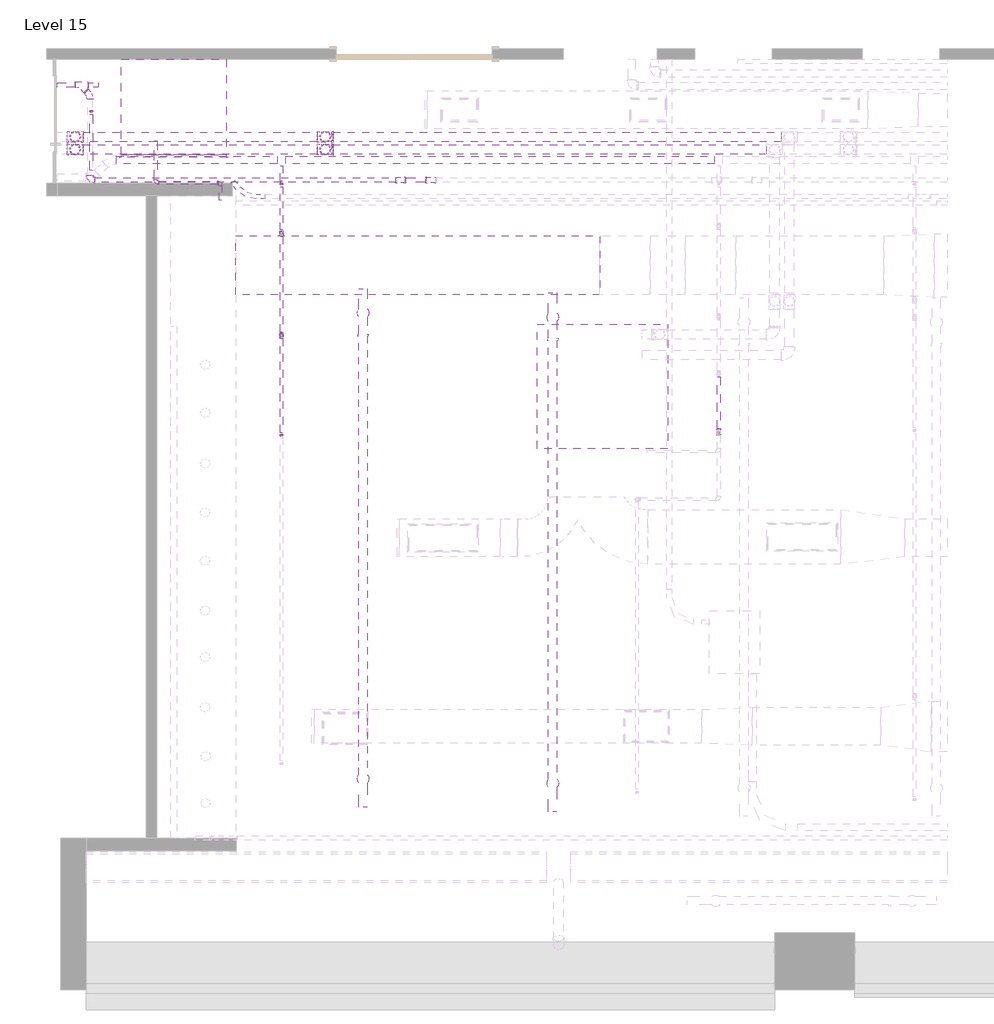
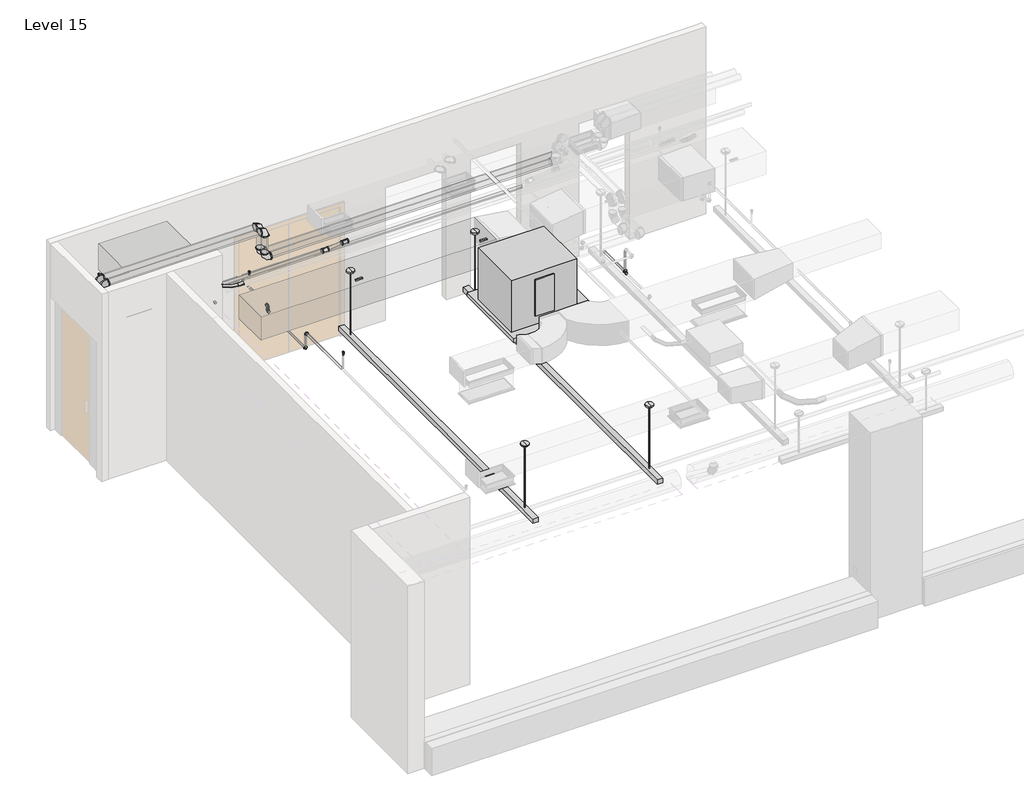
# One storey, part 9 of 11: 30 pipe segments, 20 pipe fittings, 3 fire suppression terminals, 2 duct segments, 2 light fixtures, 1 air terminal, 1 cable carrier fitting, 1 proxy.
"""IFC4 building model written with IfcOpenShell, lengths in millimetres."""

from ifc_helpers import new_model, si_unit, point, frame, frame_2d, origin, place, context, project, spatial, polyline, circle_curve, trimmed, segment, composite_curve, outline, extrude, transform, mapped, element, save
from components import supply_diffuser_sidewall_50x20_67430b31, mechanical_equipment_unit_01_mechanical_equipment_unit_01_60a01225, conduit_elbow_steel_standard_2320be44, upright_standard_a22043d6, light_fixture_7ab595b3, standard_237da642, standard_2c5c9f85, threaded_elbow_standard_6d9bc947, threaded_elbow_standard_9b51c0a6, threaded_elbow_standard_1325fe2b, threaded_elbow_standard_748a37ac, threaded_tee_standard_6c852c21

model = new_model("IFC4")

# Units and contexts
model_context = context("Model", 3, world=origin())
ifc_project = project(units=[si_unit("LENGTHUNIT", "METRE", prefix="MILLI")], contexts=[model_context])

# Site, building, storey
site = spatial("IfcSite", under=ifc_project)
building = spatial("IfcBuilding", under=site)
storey = spatial("IfcBuildingStorey", under=building, Name="Level 15", Elevation=51206.4)

# Air terminal
placement = place(None, origin())
supply_diffuser_sidewall_50x20_shape = supply_diffuser_sidewall_50x20_67430b31(model_context)
element("IfcAirTerminal", 1, ObjectType="Supply Diffuser - Sidewall : 50x20", at=placement, inside=storey, context=model_context, shape_type="MappedRepresentation", body=[
    mapped(supply_diffuser_sidewall_50x20_shape, transform((-16782.2415084, 3453.3328485, 54317.9), x_axis=(1.0, 0.0, 0.0), y_axis=(0.0, 1.0, 0.0), z_axis=(0.0, 0.0, 1.0))),
])

# Proxy
mechanical_equipment_unit_01_mechanical_equipment_unit_01_shape = mechanical_equipment_unit_01_mechanical_equipment_unit_01_60a01225(model_context)
element("IfcBuildingElementProxy", 2, Name="Mechanical Equipment_Unit 01 : Mechanical Equipment_Unit 01", ObjectType="Mechanical Equipment_Unit 01 : Mechanical Equipment_Unit 01", at=placement, inside=storey, context=model_context, shape_type="MappedRepresentation", body=[
    mapped(mechanical_equipment_unit_01_mechanical_equipment_unit_01_shape, transform((-11742.2415084, 649.9435985, 53721.0), x_axis=(1.0, 0.0, 0.0), y_axis=(0.0, 1.0, 0.0), z_axis=(0.0, 0.0, 1.0))),
])

# Cable carrier fitting
conduit_elbow_steel_standard_shape = conduit_elbow_steel_standard_2320be44(model_context)
element("IfcCableCarrierFitting", 3, ObjectType="Conduit Elbow - Steel : Standard", at=placement, inside=storey, context=model_context, shape_type="MappedRepresentation", body=[
    mapped(conduit_elbow_steel_standard_shape, transform((-15917.2199995, 2977.9204938, 54197.25), x_axis=(0.6560590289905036, -0.7547095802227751, 0.0), y_axis=(0.7547095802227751, 0.6560590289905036, 0.0), z_axis=(0.0, 0.0, 1.0))),
])

# Duct segments
element("IfcDuctSegment", 4, ObjectType="Square Throat Elbows / S&D", at=placement, inside=storey, context=model_context, shape_type="SweptSolid", body=[
    extrude(outline(polyline([(-16037.0051026, 1791.174678), (-16037.0051026, 2502.374678), (-11648.480013, 2502.374678), (-11648.480013, 1791.174678), (-16037.0051026, 1791.174678)])), frame((0.0, 0.0, 53911.5), z_axis=(0.0, 0.0, 1.0), x_axis=(1.0, 0.0, 0.0)), (0.0, 0.0, 1.0), 457.2),
])
element("IfcDuctSegment", 5, ObjectType="Square Throat Elbows / S&D", at=placement, inside=storey, context=model_context, shape_type="SweptSolid", body=[
    extrude(outline(polyline([(-17417.2415084, 4633.4500496), (-16147.2415084, 4633.4500496), (-16147.2415084, 3481.1140985), (-17417.2415084, 3481.1140985), (-17417.2415084, 4633.4500496)])), frame((0.0, 0.0, 54063.9), z_axis=(0.0, 0.0, 1.0), x_axis=(1.0, 0.0, 0.0)), (0.0, 0.0, 1.0), 508.0),
])

# Fire suppression terminals
upright_standard_shape = upright_standard_a22043d6(model_context)
element("IfcFireSuppressionTerminal", 6, ObjectType="Upright : Standard", at=placement, inside=storey, context=model_context, shape_type="MappedRepresentation", body=[
    mapped(upright_standard_shape, transform((-15483.0415084, 3129.8143012, 54203.6), x_axis=(1.0, 0.0, 0.0), y_axis=(0.0, 1.0, 0.0), z_axis=(0.0, 0.0, 1.0))),
])
element("IfcFireSuppressionTerminal", 7, ObjectType="Upright : Standard", at=placement, inside=storey, context=model_context, shape_type="MappedRepresentation", body=[
    mapped(upright_standard_shape, transform((-15483.0415084, 100.8643012, 54457.6), x_axis=(1.0, 0.0, 0.0), y_axis=(0.0, 1.0, 0.0), z_axis=(0.0, 0.0, 1.0))),
])
element("IfcFireSuppressionTerminal", 8, ObjectType="Upright : Standard", at=placement, inside=storey, context=model_context, shape_type="MappedRepresentation", body=[
    mapped(upright_standard_shape, transform((-17775.8410084, 4003.4837038, 54432.2), x_axis=(-1.0000000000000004, 0.0, 0.0), y_axis=(0.0, -1.0000000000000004, 0.0), z_axis=(0.0, 0.0, 1.0))),
])

# Light fixtures
light_fixture_shape = light_fixture_7ab595b3(model_context)
element("IfcLightFixture", 9, ObjectType="Linear : 20' 8\"", at=placement, inside=storey, context=model_context, shape_type="MappedRepresentation", body=[
    mapped(light_fixture_shape, transform((-14498.0896361, 1307.3092515, 49703.9365365), x_axis=(0.0, 1.0, 0.0), y_axis=(-1.0, 0.0, 0.0), z_axis=(0.0, 0.0, 1.0))),
])
element("IfcLightFixture", 10, ObjectType="Linear : 20' 8\"", at=placement, inside=storey, context=model_context, shape_type="MappedRepresentation", body=[
    mapped(light_fixture_shape, transform((-12212.8415084, 1254.3935985, 49703.9365365), x_axis=(0.0, 1.0, 0.0), y_axis=(-1.0, 0.0, 0.0), z_axis=(0.0, 0.0, 1.0))),
])

# Pipe fittings
standard_shape = standard_237da642(model_context)
element("IfcPipeFitting", 11, ObjectType="Victaulic Grooved Elbow : Standard", at=placement, inside=storey, context=model_context, shape_type="MappedRepresentation", body=[
    mapped(standard_shape, transform((-15483.0415084, 1305.9935985, 54165.5), x_axis=(0.0, 1.0, 0.0), y_axis=(0.0, 0.0, -1.0), z_axis=(-1.0, 0.0, 0.0))),
])
element("IfcPipeFitting", 12, ObjectType="Victaulic Grooved Elbow : Standard", at=placement, inside=storey, context=model_context, shape_type="MappedRepresentation", body=[
    mapped(standard_shape, transform((-15483.0415084, 1305.9935985, 53848.0), x_axis=(0.0, 0.0, -1.0), y_axis=(0.0, 1.0, 0.0), z_axis=(1.0, 0.0, 0.0))),
])
element("IfcPipeFitting", 13, ObjectType="Victaulic Grooved Elbow : Standard", at=placement, inside=storey, context=model_context, shape_type="MappedRepresentation", body=[
    mapped(standard_shape, transform((-15483.0415084, 2537.8935985, 53848.0), x_axis=(0.0, 1.0, 0.0), y_axis=(0.0, 0.0, 1.0), z_axis=(1.0, 0.0, 0.0))),
])
element("IfcPipeFitting", 14, ObjectType="Victaulic Grooved Elbow : Standard", at=placement, inside=storey, context=model_context, shape_type="MappedRepresentation", body=[
    mapped(standard_shape, transform((-15483.0415084, 2537.8935985, 53949.6), x_axis=(0.0, 0.0, 1.0), y_axis=(0.0, 1.0, 0.0), z_axis=(-1.0, 0.0, 0.0))),
])
element("IfcPipeFitting", 15, ObjectType="Victaulic Grooved Elbow : Standard", at=placement, inside=storey, context=model_context, shape_type="MappedRepresentation", body=[
    mapped(standard_shape, transform((-16999.1720765, 3143.8435985, 54013.1), x_axis=(0.0, -1.0000000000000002, 0.0), y_axis=(1.0000000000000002, 0.0, 0.0), z_axis=(0.0, 0.0, 1.0))),
])
element("IfcPipeFitting", 16, ObjectType="Victaulic Grooved Elbow : Standard", at=placement, inside=storey, context=model_context, shape_type="MappedRepresentation", body=[
    mapped(standard_shape, transform((-16218.1220765, 3143.8435985, 54013.1), x_axis=(0.0, 1.0, 0.0), y_axis=(-1.0, 0.0, 0.0), z_axis=(0.0, 0.0, 1.0))),
])
standard_2_shape = standard_2c5c9f85(model_context)
element("IfcPipeFitting", 17, ObjectType="Victaulic Grooved Tee : Standard", at=placement, inside=storey, context=model_context, shape_type="MappedRepresentation", body=[
    mapped(standard_2_shape, transform((-10213.0653587, 138.9643012, 54216.3), x_axis=(0.0, 1.0, 0.0), y_axis=(0.0, 0.0, -1.0), z_axis=(-1.0, 0.0, 0.0))),
])
threaded_elbow_standard_shape = threaded_elbow_standard_6d9bc947(model_context)
element("IfcPipeFitting", 18, ObjectType="Threaded Elbow : Standard", at=placement, inside=storey, context=model_context, shape_type="MappedRepresentation", body=[
    mapped(threaded_elbow_standard_shape, transform((-14956.5807372, 3697.146744, 54635.4), x_axis=(1.0, 0.0, 0.0), y_axis=(0.0, 0.0, -1.0), z_axis=(0.0, 1.0, 0.0))),
])
element("IfcPipeFitting", 19, ObjectType="Threaded Elbow : Standard", at=placement, inside=storey, context=model_context, shape_type="MappedRepresentation", body=[
    mapped(threaded_elbow_standard_shape, transform((-14956.5807372, 3697.146744, 54114.7), x_axis=(0.0, 0.0, -1.0), y_axis=(1.0, 0.0, 0.0), z_axis=(0.0, -1.0, 0.0))),
])
element("IfcPipeFitting", 20, ObjectType="Threaded Elbow : Standard", at=placement, inside=storey, context=model_context, shape_type="MappedRepresentation", body=[
    mapped(threaded_elbow_standard_shape, transform((-17970.4307372, 3697.146744, 54635.4), x_axis=(-1.0, 0.0, 0.0), y_axis=(0.0, 0.0, -1.0), z_axis=(0.0, -1.0, 0.0))),
])
element("IfcPipeFitting", 21, ObjectType="Threaded Elbow : Standard", at=placement, inside=storey, context=model_context, shape_type="MappedRepresentation", body=[
    mapped(threaded_elbow_standard_shape, transform((-17970.4307372, 3697.146744, 54127.4), x_axis=(0.0, 0.0, -1.0), y_axis=(-1.0, 0.0, 0.0), z_axis=(0.0, 1.0, 0.0))),
])
element("IfcPipeFitting", 22, ObjectType="Threaded Elbow : Standard", at=placement, inside=storey, context=model_context, shape_type="MappedRepresentation", body=[
    mapped(threaded_elbow_standard_shape, transform((-14956.5807372, 3544.746744, 54635.4), x_axis=(1.0, 0.0, 0.0), y_axis=(0.0, 0.0, -1.0), z_axis=(0.0, 1.0, 0.0))),
])
element("IfcPipeFitting", 23, ObjectType="Threaded Elbow : Standard", at=placement, inside=storey, context=model_context, shape_type="MappedRepresentation", body=[
    mapped(threaded_elbow_standard_shape, transform((-14956.5807372, 3544.746744, 54114.7), x_axis=(0.0, 0.0, -1.0), y_axis=(1.0, 0.0, 0.0), z_axis=(0.0, -1.0, 0.0))),
])
element("IfcPipeFitting", 24, ObjectType="Threaded Elbow : Standard", at=placement, inside=storey, context=model_context, shape_type="MappedRepresentation", body=[
    mapped(threaded_elbow_standard_shape, transform((-17970.4307372, 3544.746744, 54635.4), x_axis=(-1.0, 0.0, 0.0), y_axis=(0.0, 0.0, -1.0), z_axis=(0.0, -1.0, 0.0))),
])
element("IfcPipeFitting", 25, ObjectType="Threaded Elbow : Standard", at=placement, inside=storey, context=model_context, shape_type="MappedRepresentation", body=[
    mapped(threaded_elbow_standard_shape, transform((-17970.4307372, 3544.746744, 54127.4), x_axis=(0.0, 0.0, -1.0), y_axis=(-1.0, 0.0, 0.0), z_axis=(0.0, 1.0, 0.0))),
])
threaded_elbow_standard_2_shape = threaded_elbow_standard_9b51c0a6(model_context)
element("IfcPipeFitting", 26, ObjectType="Threaded Elbow : Standard", at=placement, inside=storey, context=model_context, shape_type="MappedRepresentation", body=[
    mapped(threaded_elbow_standard_2_shape, transform((-17792.5415084, 3176.4435985, 54152.8), x_axis=(0.0, -1.0, 0.0), y_axis=(1.0, 0.0, 0.0), z_axis=(0.0, 0.0, 1.0))),
])
threaded_elbow_standard_3_shape = threaded_elbow_standard_1325fe2b(model_context)
element("IfcPipeFitting", 27, ObjectType="Threaded Elbow : Standard", at=placement, inside=storey, context=model_context, shape_type="MappedRepresentation", body=[
    mapped(threaded_elbow_standard_3_shape, transform((-17792.5415084, 4204.8435985, 54152.8), x_axis=(0.0, 1.0, 0.0), y_axis=(-1.0, 0.0, 0.0), z_axis=(0.0, 0.0, 1.0))),
])
threaded_elbow_standard_4_shape = threaded_elbow_standard_748a37ac(model_context)
element("IfcPipeFitting", 28, ObjectType="Threaded Elbow : Standard", at=placement, inside=storey, context=model_context, shape_type="MappedRepresentation", body=[
    mapped(threaded_elbow_standard_4_shape, transform((-14045.6538566, 3176.4435985, 54152.8), x_axis=(1.0, 0.0, 0.0), y_axis=(0.0, 0.0, 1.0), z_axis=(0.0, -1.0, 0.0))),
])
element("IfcPipeFitting", 29, ObjectType="Threaded Elbow : Standard", at=placement, inside=storey, context=model_context, shape_type="MappedRepresentation", body=[
    mapped(threaded_elbow_standard_4_shape, transform((-13683.1565709, 3176.4435985, 54190.9), x_axis=(-1.0, 0.0, 0.0), y_axis=(0.0, 0.0, -1.0), z_axis=(0.0, -1.0, 0.0))),
])
threaded_tee_standard_shape = threaded_tee_standard_6c852c21(model_context)
element("IfcPipeFitting", 30, ObjectType="Threaded Tee : Standard", at=placement, inside=storey, context=model_context, shape_type="MappedRepresentation", body=[
    mapped(threaded_tee_standard_shape, transform((-17912.2415084, 4324.5435985, 54152.8), x_axis=(-1.0, 0.0, 0.0), y_axis=(0.0, 1.0, 0.0), z_axis=(0.0, 0.0, -1.0))),
])

# Pipe segments
element("IfcPipeSegment", 31, ObjectType="Fire Prot Sched 10 Main", at=placement, inside=storey, context=model_context, shape_type="SweptSolid", body=[
    extrude(outline(composite_curve([segment(trimmed(circle_curve(frame_2d((-15483.0415084, 1305.9935985)), 16.7005), [point((-15466.3410084, 1305.9935985))], [point((-15483.0415084, 1289.2930985))], False, "CARTESIAN"), True, "CONTINUOUS"), segment(trimmed(circle_curve(frame_2d((-15483.0415084, 1305.9935985)), 16.7005), [point((-15483.0415084, 1289.2930985))], [point((-15499.7420084, 1305.9935985))], False, "CARTESIAN"), True, "CONTINUOUS"), segment(trimmed(circle_curve(frame_2d((-15483.0415084, 1305.9935985)), 16.7005), [point((-15499.7420084, 1305.9935985))], [point((-15483.0415084, 1322.6940985))], False, "CARTESIAN"), True, "CONTINUOUS"), segment(trimmed(circle_curve(frame_2d((-15483.0415084, 1305.9935985)), 16.7005), [point((-15483.0415084, 1322.6940985))], [point((-15466.3410084, 1305.9935985))], False, "CARTESIAN"), True, "CONTINUOUS")], self_intersect=False)), frame((0.0, 0.0, 53884.9450937), z_axis=(0.0, 0.0, 1.0), x_axis=(1.0, 0.0, 0.0)), (0.0, 0.0, 1.0), 243.6098125),
])
element("IfcPipeSegment", 32, ObjectType="Fire Prot Sched 10 Main", at=placement, inside=storey, context=model_context, shape_type="SweptSolid", body=[
    extrude(outline(composite_curve([segment(trimmed(circle_curve(frame_2d((53848.0, -15483.0415084)), 16.7005), [point((53848.0, -15466.3410084))], [point((53864.7005, -15483.0415084))], False, "CARTESIAN"), True, "CONTINUOUS"), segment(trimmed(circle_curve(frame_2d((53848.0, -15483.0415084)), 16.7005), [point((53864.7005, -15483.0415084))], [point((53848.0, -15499.7420084))], False, "CARTESIAN"), True, "CONTINUOUS"), segment(trimmed(circle_curve(frame_2d((53848.0, -15483.0415084)), 16.7005), [point((53848.0, -15499.7420084))], [point((53831.2995, -15483.0415084))], False, "CARTESIAN"), True, "CONTINUOUS"), segment(trimmed(circle_curve(frame_2d((53848.0, -15483.0415084)), 16.7005), [point((53831.2995, -15483.0415084))], [point((53848.0, -15466.3410084))], False, "CARTESIAN"), True, "CONTINUOUS")], self_intersect=False)), frame((0.0, 1342.9386922, 0.0), z_axis=(0.0, 1.0, 0.0), x_axis=(0.0, 0.0, 1.0)), (0.0, 0.0, 1.0), 1158.0098125),
])
element("IfcPipeSegment", 33, ObjectType="Fire Prot Sched 10 Main", at=placement, inside=storey, context=model_context, shape_type="SweptSolid", body=[
    extrude(outline(composite_curve([segment(trimmed(circle_curve(frame_2d((-15483.0415084, 2537.8935985)), 16.7005), [point((-15499.7420084, 2537.8935985))], [point((-15483.0415084, 2554.5940985))], False, "CARTESIAN"), True, "CONTINUOUS"), segment(trimmed(circle_curve(frame_2d((-15483.0415084, 2537.8935985)), 16.7005), [point((-15483.0415084, 2554.5940985))], [point((-15466.3410084, 2537.8935985))], False, "CARTESIAN"), True, "CONTINUOUS"), segment(trimmed(circle_curve(frame_2d((-15483.0415084, 2537.8935985)), 16.7005), [point((-15466.3410084, 2537.8935985))], [point((-15483.0415084, 2521.1930985))], False, "CARTESIAN"), True, "CONTINUOUS"), segment(trimmed(circle_curve(frame_2d((-15483.0415084, 2537.8935985)), 16.7005), [point((-15483.0415084, 2521.1930985))], [point((-15499.7420084, 2537.8935985))], False, "CARTESIAN"), True, "CONTINUOUS")], self_intersect=False)), frame((0.0, 0.0, 53884.9450937), z_axis=(0.0, 0.0, 1.0), x_axis=(1.0, 0.0, 0.0)), (0.0, 0.0, 1.0), 27.7098125),
])
element("IfcPipeSegment", 34, ObjectType="Fire Prot Sched 10 Main", at=placement, inside=storey, context=model_context, shape_type="SweptSolid", body=[
    extrude(outline(composite_curve([segment(trimmed(circle_curve(frame_2d((3418.1189131, 53949.6)), 44.45), [point((3462.5689131, 53949.6))], [point((3418.1189131, 53905.15))], False, "CARTESIAN"), True, "CONTINUOUS"), segment(trimmed(circle_curve(frame_2d((3418.1189131, 53949.6)), 44.45), [point((3418.1189131, 53905.15))], [point((3373.6689131, 53949.6))], False, "CARTESIAN"), True, "CONTINUOUS"), segment(trimmed(circle_curve(frame_2d((3418.1189131, 53949.6)), 44.45), [point((3373.6689131, 53949.6))], [point((3418.1189131, 53994.05))], False, "CARTESIAN"), True, "CONTINUOUS"), segment(trimmed(circle_curve(frame_2d((3418.1189131, 53949.6)), 44.45), [point((3418.1189131, 53994.05))], [point((3462.5689131, 53949.6))], False, "CARTESIAN"), True, "CONTINUOUS")], self_intersect=False)), frame((-17475.2192563, 0.0, 0.0), z_axis=(1.0, 0.0, 0.0), x_axis=(0.0, 1.0, 0.0)), (0.0, 0.0, 1.0), 1941.3777479),
])
element("IfcPipeSegment", 35, ObjectType="Fire Prot Sched 10 Main", at=placement, inside=storey, context=model_context, shape_type="SweptSolid", body=[
    extrude(outline(composite_curve([segment(trimmed(circle_curve(frame_2d((-15483.0415084, 3129.8143012)), 10.668), [point((-15472.3735084, 3129.8143012))], [point((-15483.0415084, 3119.1463012))], False, "CARTESIAN"), True, "CONTINUOUS"), segment(trimmed(circle_curve(frame_2d((-15483.0415084, 3129.8143012)), 10.668), [point((-15483.0415084, 3119.1463012))], [point((-15493.7095084, 3129.8143012))], False, "CARTESIAN"), True, "CONTINUOUS"), segment(trimmed(circle_curve(frame_2d((-15483.0415084, 3129.8143012)), 10.668), [point((-15493.7095084, 3129.8143012))], [point((-15483.0415084, 3140.4823012))], False, "CARTESIAN"), True, "CONTINUOUS"), segment(trimmed(circle_curve(frame_2d((-15483.0415084, 3129.8143012)), 10.668), [point((-15483.0415084, 3140.4823012))], [point((-15472.3735084, 3129.8143012))], False, "CARTESIAN"), True, "CONTINUOUS")], self_intersect=False)), frame((0.0, 0.0, 53985.1), z_axis=(0.0, 0.0, 1.0), x_axis=(1.0, 0.0, 0.0)), (0.0, 0.0, 1.0), 218.5),
])
element("IfcPipeSegment", 36, ObjectType="Fire Prot Sched 10 Main", at=placement, inside=storey, context=model_context, shape_type="SweptSolid", body=[
    extrude(outline(composite_curve([segment(trimmed(circle_curve(frame_2d((53949.6, -15483.0415084)), 16.7005), [point((53949.6, -15499.7420084))], [point((53932.8995, -15483.0415084))], False, "CARTESIAN"), True, "CONTINUOUS"), segment(trimmed(circle_curve(frame_2d((53949.6, -15483.0415084)), 16.7005), [point((53932.8995, -15483.0415084))], [point((53949.6, -15466.3410084))], False, "CARTESIAN"), True, "CONTINUOUS"), segment(trimmed(circle_curve(frame_2d((53949.6, -15483.0415084)), 16.7005), [point((53949.6, -15466.3410084))], [point((53966.3005, -15483.0415084))], False, "CARTESIAN"), True, "CONTINUOUS"), segment(trimmed(circle_curve(frame_2d((53949.6, -15483.0415084)), 16.7005), [point((53966.3005, -15483.0415084))], [point((53949.6, -15499.7420084))], False, "CARTESIAN"), True, "CONTINUOUS")], self_intersect=False)), frame((0.0, 2574.8386922, 0.0), z_axis=(0.0, 1.0, 0.0), x_axis=(0.0, 0.0, 1.0)), (0.0, 0.0, 1.0), 522.975609),
])
element("IfcPipeSegment", 37, ObjectType="Fire Prot Sched 10 Main", at=placement, inside=storey, context=model_context, shape_type="SweptSolid", body=[
    extrude(outline(composite_curve([segment(trimmed(circle_curve(frame_2d((53949.6, -15483.0415084)), 16.7005), [point((53949.6, -15499.7420084))], [point((53932.8995, -15483.0415084))], False, "CARTESIAN"), True, "CONTINUOUS"), segment(trimmed(circle_curve(frame_2d((53949.6, -15483.0415084)), 16.7005), [point((53932.8995, -15483.0415084))], [point((53949.6, -15466.3410084))], False, "CARTESIAN"), True, "CONTINUOUS"), segment(trimmed(circle_curve(frame_2d((53949.6, -15483.0415084)), 16.7005), [point((53949.6, -15466.3410084))], [point((53966.3005, -15483.0415084))], False, "CARTESIAN"), True, "CONTINUOUS"), segment(trimmed(circle_curve(frame_2d((53949.6, -15483.0415084)), 16.7005), [point((53966.3005, -15483.0415084))], [point((53949.6, -15499.7420084))], False, "CARTESIAN"), True, "CONTINUOUS")], self_intersect=False)), frame((0.0, 3161.8143012, 0.0), z_axis=(0.0, 1.0, 0.0), x_axis=(0.0, 0.0, 1.0)), (0.0, 0.0, 1.0), 188.7046119),
])
element("IfcPipeSegment", 38, ObjectType="Fire Prot Sched 10 Main", at=placement, inside=storey, context=model_context, shape_type="SweptSolid", body=[
    extrude(outline(composite_curve([segment(trimmed(circle_curve(frame_2d((-15483.0415084, 100.8643012)), 10.668), [point((-15472.3735084, 100.8643012))], [point((-15483.0415084, 90.1963012))], False, "CARTESIAN"), True, "CONTINUOUS"), segment(trimmed(circle_curve(frame_2d((-15483.0415084, 100.8643012)), 10.668), [point((-15483.0415084, 90.1963012))], [point((-15493.7095084, 100.8643012))], False, "CARTESIAN"), True, "CONTINUOUS"), segment(trimmed(circle_curve(frame_2d((-15483.0415084, 100.8643012)), 10.668), [point((-15493.7095084, 100.8643012))], [point((-15483.0415084, 111.5323012))], False, "CARTESIAN"), True, "CONTINUOUS"), segment(trimmed(circle_curve(frame_2d((-15483.0415084, 100.8643012)), 10.668), [point((-15483.0415084, 111.5323012))], [point((-15472.3735084, 100.8643012))], False, "CARTESIAN"), True, "CONTINUOUS")], self_intersect=False)), frame((0.0, 0.0, 54201.0), z_axis=(0.0, 0.0, 1.0), x_axis=(1.0, 0.0, 0.0)), (0.0, 0.0, 1.0), 256.6),
])
element("IfcPipeSegment", 39, ObjectType="Fire Prot Sched 10 Main", at=placement, inside=storey, context=model_context, shape_type="SweptSolid", body=[
    extrude(outline(composite_curve([segment(trimmed(circle_curve(frame_2d((54165.5, -15483.0415084)), 16.7005), [point((54165.5, -15499.7420084))], [point((54148.7995, -15483.0415084))], False, "CARTESIAN"), True, "CONTINUOUS"), segment(trimmed(circle_curve(frame_2d((54165.5, -15483.0415084)), 16.7005), [point((54148.7995, -15483.0415084))], [point((54165.5, -15466.3410084))], False, "CARTESIAN"), True, "CONTINUOUS"), segment(trimmed(circle_curve(frame_2d((54165.5, -15483.0415084)), 16.7005), [point((54165.5, -15466.3410084))], [point((54182.2005, -15483.0415084))], False, "CARTESIAN"), True, "CONTINUOUS"), segment(trimmed(circle_curve(frame_2d((54165.5, -15483.0415084)), 16.7005), [point((54182.2005, -15483.0415084))], [point((54165.5, -15499.7420084))], False, "CARTESIAN"), True, "CONTINUOUS")], self_intersect=False)), frame((0.0, 132.8643012, 0.0), z_axis=(0.0, 1.0, 0.0), x_axis=(0.0, 0.0, 1.0)), (0.0, 0.0, 1.0), 1136.1842035),
])
element("IfcPipeSegment", 40, ObjectType="Fire Prot Sched 10 Main", at=placement, inside=storey, context=model_context, shape_type="SweptSolid", body=[
    extrude(outline(composite_curve([segment(trimmed(circle_curve(frame_2d((-10213.0653587, 138.9643012)), 16.7005), [point((-10196.3648587, 138.9643012))], [point((-10213.0653587, 122.2638012))], False, "CARTESIAN"), True, "CONTINUOUS"), segment(trimmed(circle_curve(frame_2d((-10213.0653587, 138.9643012)), 16.7005), [point((-10213.0653587, 122.2638012))], [point((-10229.7658587, 138.9643012))], False, "CARTESIAN"), True, "CONTINUOUS"), segment(trimmed(circle_curve(frame_2d((-10213.0653587, 138.9643012)), 16.7005), [point((-10229.7658587, 138.9643012))], [point((-10213.0653587, 155.6648012))], False, "CARTESIAN"), True, "CONTINUOUS"), segment(trimmed(circle_curve(frame_2d((-10213.0653587, 138.9643012)), 16.7005), [point((-10213.0653587, 155.6648012))], [point((-10196.3648587, 138.9643012))], False, "CARTESIAN"), True, "CONTINUOUS")], self_intersect=False)), frame((0.0, 0.0, 54253.3879687), z_axis=(0.0, 0.0, 1.0), x_axis=(1.0, 0.0, 0.0)), (0.0, 0.0, 1.0), 383.1669375),
])
element("IfcPipeSegment", 41, ObjectType="Fire Prot Sched 10 Main", at=placement, inside=storey, context=model_context, shape_type="SweptSolid", body=[
    extrude(outline(composite_curve([segment(trimmed(circle_curve(frame_2d((54216.3, -10213.0653587)), 16.7005), [point((54216.3, -10229.7658587))], [point((54199.5995, -10213.0653587))], False, "CARTESIAN"), True, "CONTINUOUS"), segment(trimmed(circle_curve(frame_2d((54216.3, -10213.0653587)), 16.7005), [point((54199.5995, -10213.0653587))], [point((54216.3, -10196.3648587))], False, "CARTESIAN"), True, "CONTINUOUS"), segment(trimmed(circle_curve(frame_2d((54216.3, -10213.0653587)), 16.7005), [point((54216.3, -10196.3648587))], [point((54233.0005, -10213.0653587))], False, "CARTESIAN"), True, "CONTINUOUS"), segment(trimmed(circle_curve(frame_2d((54216.3, -10213.0653587)), 16.7005), [point((54233.0005, -10213.0653587))], [point((54216.3, -10229.7658587))], False, "CARTESIAN"), True, "CONTINUOUS")], self_intersect=False)), frame((0.0, 176.1395825, 0.0), z_axis=(0.0, 1.0, 0.0), x_axis=(0.0, 0.0, 1.0)), (0.0, 0.0, 1.0), 629.6122113),
])
element("IfcPipeSegment", 42, ObjectType="Fire Prot Sched 10 Main", at=placement, inside=storey, context=model_context, shape_type="SweptSolid", body=[
    extrude(outline(composite_curve([segment(trimmed(circle_curve(frame_2d((3418.1189131, 53949.6)), 44.45), [point((3373.6689131, 53949.6))], [point((3418.1189131, 53994.05))], False, "CARTESIAN"), True, "CONTINUOUS"), segment(trimmed(circle_curve(frame_2d((3418.1189131, 53949.6)), 44.45), [point((3418.1189131, 53994.05))], [point((3462.5689131, 53949.6))], False, "CARTESIAN"), True, "CONTINUOUS"), segment(trimmed(circle_curve(frame_2d((3418.1189131, 53949.6)), 44.45), [point((3462.5689131, 53949.6))], [point((3418.1189131, 53905.15))], False, "CARTESIAN"), True, "CONTINUOUS"), segment(trimmed(circle_curve(frame_2d((3418.1189131, 53949.6)), 44.45), [point((3418.1189131, 53905.15))], [point((3373.6689131, 53949.6))], False, "CARTESIAN"), True, "CONTINUOUS")], self_intersect=False)), frame((-15432.2415084, 0.0, 0.0), z_axis=(1.0, 0.0, 0.0), x_axis=(0.0, 1.0, 0.0)), (0.0, 0.0, 1.0), 5168.3761496),
])
element("IfcPipeSegment", 43, ObjectType="Fire Prot Sched 10 Main", at=placement, inside=storey, context=model_context, shape_type="SweptSolid", body=[
    extrude(outline(composite_curve([segment(trimmed(circle_curve(frame_2d((54013.1, -16999.1720765)), 16.7005), [point((54013.1, -16982.4715765))], [point((54029.8005, -16999.1720765))], False, "CARTESIAN"), True, "CONTINUOUS"), segment(trimmed(circle_curve(frame_2d((54013.1, -16999.1720765)), 16.7005), [point((54029.8005, -16999.1720765))], [point((54013.1, -17015.8725765))], False, "CARTESIAN"), True, "CONTINUOUS"), segment(trimmed(circle_curve(frame_2d((54013.1, -16999.1720765)), 16.7005), [point((54013.1, -17015.8725765))], [point((53996.3995, -16999.1720765))], False, "CARTESIAN"), True, "CONTINUOUS"), segment(trimmed(circle_curve(frame_2d((54013.1, -16999.1720765)), 16.7005), [point((53996.3995, -16999.1720765))], [point((54013.1, -16982.4715765))], False, "CARTESIAN"), True, "CONTINUOUS")], self_intersect=False)), frame((0.0, 3180.7886922, 0.0), z_axis=(0.0, 1.0, 0.0), x_axis=(0.0, 0.0, 1.0)), (0.0, 0.0, 1.0), 469.6950115),
])
element("IfcPipeSegment", 44, ObjectType="Fire Prot Sched 10 Main", at=placement, inside=storey, context=model_context, shape_type="SweptSolid", body=[
    extrude(outline(composite_curve([segment(trimmed(circle_curve(frame_2d((3143.8435985, 54013.1)), 16.7005), [point((3127.1430985, 54013.1))], [point((3143.8435985, 54029.8005))], False, "CARTESIAN"), True, "CONTINUOUS"), segment(trimmed(circle_curve(frame_2d((3143.8435985, 54013.1)), 16.7005), [point((3143.8435985, 54029.8005))], [point((3160.5440985, 54013.1))], False, "CARTESIAN"), True, "CONTINUOUS"), segment(trimmed(circle_curve(frame_2d((3143.8435985, 54013.1)), 16.7005), [point((3160.5440985, 54013.1))], [point((3143.8435985, 53996.3995))], False, "CARTESIAN"), True, "CONTINUOUS"), segment(trimmed(circle_curve(frame_2d((3143.8435985, 54013.1)), 16.7005), [point((3143.8435985, 53996.3995))], [point((3127.1430985, 54013.1))], False, "CARTESIAN"), True, "CONTINUOUS")], self_intersect=False)), frame((-16962.2269828, 0.0, 0.0), z_axis=(1.0, 0.0, 0.0), x_axis=(0.0, 1.0, 0.0)), (0.0, 0.0, 1.0), 707.1598125),
])
element("IfcPipeSegment", 45, ObjectType="Fire Prot Sched 10 Main", at=placement, inside=storey, context=model_context, shape_type="SweptSolid", body=[
    extrude(outline(composite_curve([segment(trimmed(circle_curve(frame_2d((54305.2, -17775.8410084)), 16.7005), [point((54305.2, -17759.1405084))], [point((54321.9005, -17775.8410084))], False, "CARTESIAN"), True, "CONTINUOUS"), segment(trimmed(circle_curve(frame_2d((54305.2, -17775.8410084)), 16.7005), [point((54321.9005, -17775.8410084))], [point((54305.2, -17792.5415084))], False, "CARTESIAN"), True, "CONTINUOUS"), segment(trimmed(circle_curve(frame_2d((54305.2, -17775.8410084)), 16.7005), [point((54305.2, -17792.5415084))], [point((54288.4995, -17775.8410084))], False, "CARTESIAN"), True, "CONTINUOUS"), segment(trimmed(circle_curve(frame_2d((54305.2, -17775.8410084)), 16.7005), [point((54288.4995, -17775.8410084))], [point((54305.2, -17759.1405084))], False, "CARTESIAN"), True, "CONTINUOUS")], self_intersect=False)), frame((0.0, 3293.7672844, 0.0), z_axis=(0.0, 1.0, 0.0), x_axis=(0.0, 0.0, 1.0)), (0.0, 0.0, 1.0), 674.2164193),
])
element("IfcPipeSegment", 46, ObjectType="Fire Prot Sched 10 Main", at=placement, inside=storey, context=model_context, shape_type="SweptSolid", body=[
    extrude(outline(composite_curve([segment(trimmed(circle_curve(frame_2d((-17775.8410084, 4003.4837038)), 10.668), [point((-17765.1730084, 4003.4837038))], [point((-17775.8410084, 3992.8157038))], False, "CARTESIAN"), True, "CONTINUOUS"), segment(trimmed(circle_curve(frame_2d((-17775.8410084, 4003.4837038)), 10.668), [point((-17775.8410084, 3992.8157038))], [point((-17786.5090084, 4003.4837038))], False, "CARTESIAN"), True, "CONTINUOUS"), segment(trimmed(circle_curve(frame_2d((-17775.8410084, 4003.4837038)), 10.668), [point((-17786.5090084, 4003.4837038))], [point((-17775.8410084, 4014.1517038))], False, "CARTESIAN"), True, "CONTINUOUS"), segment(trimmed(circle_curve(frame_2d((-17775.8410084, 4003.4837038)), 10.668), [point((-17775.8410084, 4014.1517038))], [point((-17765.1730084, 4003.4837038))], False, "CARTESIAN"), True, "CONTINUOUS")], self_intersect=False)), frame((0.0, 0.0, 54337.99375), z_axis=(0.0, 0.0, 1.0), x_axis=(1.0, 0.0, 0.0)), (0.0, 0.0, 1.0), 94.20625),
])
element("IfcPipeSegment", 47, ObjectType="Fire Prot Sched 10 Main", at=placement, inside=storey, context=model_context, shape_type="SweptSolid", body=[
    extrude(outline(composite_curve([segment(trimmed(circle_curve(frame_2d((54013.1, -16218.1220765)), 16.7005), [point((54013.1, -16234.8225765))], [point((53996.3995, -16218.1220765))], False, "CARTESIAN"), True, "CONTINUOUS"), segment(trimmed(circle_curve(frame_2d((54013.1, -16218.1220765)), 16.7005), [point((53996.3995, -16218.1220765))], [point((54013.1, -16201.4215765))], False, "CARTESIAN"), True, "CONTINUOUS"), segment(trimmed(circle_curve(frame_2d((54013.1, -16218.1220765)), 16.7005), [point((54013.1, -16201.4215765))], [point((54029.8005, -16218.1220765))], False, "CARTESIAN"), True, "CONTINUOUS"), segment(trimmed(circle_curve(frame_2d((54013.1, -16218.1220765)), 16.7005), [point((54029.8005, -16218.1220765))], [point((54013.1, -16234.8225765))], False, "CARTESIAN"), True, "CONTINUOUS")], self_intersect=False)), frame((0.0, 2934.2935985, 0.0), z_axis=(0.0, 1.0, 0.0), x_axis=(0.0, 0.0, 1.0)), (0.0, 0.0, 1.0), 172.6049063),
])
element("IfcPipeSegment", 48, ObjectType="Hydronic", at=placement, inside=storey, context=model_context, shape_type="SweptSolid", body=[
    extrude(outline(composite_curve([segment(trimmed(circle_curve(frame_2d((3697.146744, 54635.4)), 57.15), [point((3754.296744, 54635.4))], [point((3697.146744, 54578.25))], False, "CARTESIAN"), True, "CONTINUOUS"), segment(trimmed(circle_curve(frame_2d((3697.146744, 54635.4)), 57.15), [point((3697.146744, 54578.25))], [point((3639.996744, 54635.4))], False, "CARTESIAN"), True, "CONTINUOUS"), segment(trimmed(circle_curve(frame_2d((3697.146744, 54635.4)), 57.15), [point((3639.996744, 54635.4))], [point((3697.146744, 54692.55))], False, "CARTESIAN"), True, "CONTINUOUS"), segment(trimmed(circle_curve(frame_2d((3697.146744, 54635.4)), 57.15), [point((3697.146744, 54692.55))], [point((3754.296744, 54635.4))], False, "CARTESIAN"), True, "CONTINUOUS")], self_intersect=False)), frame((-17873.5217997, 0.0, 0.0), z_axis=(1.0, 0.0, 0.0), x_axis=(0.0, 1.0, 0.0)), (0.0, 0.0, 1.0), 2820.032125),
])
element("IfcPipeSegment", 49, ObjectType="Hydronic", at=placement, inside=storey, context=model_context, shape_type="SweptSolid", body=[
    extrude(outline(composite_curve([segment(trimmed(circle_curve(frame_2d((-14956.5807372, 3697.146744)), 57.15), [point((-14899.4307372, 3697.146744))], [point((-14956.5807372, 3639.996744))], False, "CARTESIAN"), True, "CONTINUOUS"), segment(trimmed(circle_curve(frame_2d((-14956.5807372, 3697.146744)), 57.15), [point((-14956.5807372, 3639.996744))], [point((-15013.7307372, 3697.146744))], False, "CARTESIAN"), True, "CONTINUOUS"), segment(trimmed(circle_curve(frame_2d((-14956.5807372, 3697.146744)), 57.15), [point((-15013.7307372, 3697.146744))], [point((-14956.5807372, 3754.296744))], False, "CARTESIAN"), True, "CONTINUOUS"), segment(trimmed(circle_curve(frame_2d((-14956.5807372, 3697.146744)), 57.15), [point((-14956.5807372, 3754.296744))], [point((-14899.4307372, 3697.146744))], False, "CARTESIAN"), True, "CONTINUOUS")], self_intersect=False)), frame((0.0, 0.0, 54211.6089375), z_axis=(0.0, 0.0, 1.0), x_axis=(1.0, 0.0, 0.0)), (0.0, 0.0, 1.0), 325.9177188),
])
element("IfcPipeSegment", 50, ObjectType="Hydronic", at=placement, inside=storey, context=model_context, shape_type="SweptSolid", body=[
    extrude(outline(composite_curve([segment(trimmed(circle_curve(frame_2d((4324.5435985, 54152.8)), 26.9875), [point((4297.5560985, 54152.8))], [point((4324.5435985, 54179.7875))], False, "CARTESIAN"), True, "CONTINUOUS"), segment(trimmed(circle_curve(frame_2d((4324.5435985, 54152.8)), 26.9875), [point((4324.5435985, 54179.7875))], [point((4351.5310985, 54152.8))], False, "CARTESIAN"), True, "CONTINUOUS"), segment(trimmed(circle_curve(frame_2d((4324.5435985, 54152.8)), 26.9875), [point((4351.5310985, 54152.8))], [point((4324.5435985, 54125.8125))], False, "CARTESIAN"), True, "CONTINUOUS"), segment(trimmed(circle_curve(frame_2d((4324.5435985, 54152.8)), 26.9875), [point((4324.5435985, 54125.8125))], [point((4297.5560985, 54152.8))], False, "CARTESIAN"), True, "CONTINUOUS")], self_intersect=False)), frame((-17810.6463678, 0.0, 0.0), z_axis=(1.0, 0.0, 0.0), x_axis=(0.0, 1.0, 0.0)), (0.0, 0.0, 1.0), 117.0380772),
])
element("IfcPipeSegment", 51, ObjectType="Hydronic", at=placement, inside=storey, context=model_context, shape_type="SweptSolid", body=[
    extrude(outline(composite_curve([segment(trimmed(circle_curve(frame_2d((0.0, -26.9875)), 26.9875), [point((-26.9875, -26.9875))], [point((0.0, 0.0))], False, "CARTESIAN"), True, "CONTINUOUS"), segment(trimmed(circle_curve(frame_2d((0.0, -26.9875)), 26.9875), [point((0.0, 0.0))], [point((26.9875, -26.9875))], False, "CARTESIAN"), True, "CONTINUOUS"), segment(trimmed(circle_curve(frame_2d((0.0, -26.9875)), 26.9875), [point((26.9875, -26.9875))], [point((0.0, -53.975))], False, "CARTESIAN"), True, "CONTINUOUS"), segment(trimmed(circle_curve(frame_2d((0.0, -26.9875)), 26.9875), [point((0.0, -53.975))], [point((-26.9875, -26.9875))], False, "CARTESIAN"), True, "CONTINUOUS")], self_intersect=False)), frame((-17833.0480762, 4245.3501663, 54125.8125), z_axis=(-0.7071067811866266, 0.7071067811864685, 0.0), x_axis=(0.7071067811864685, 0.7071067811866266, 0.0)), (0.0, 0.0, 1.0), 10.4012853),
])
element("IfcPipeSegment", 52, ObjectType="Hydronic", at=placement, inside=storey, context=model_context, shape_type="SweptSolid", body=[
    extrude(outline(composite_curve([segment(trimmed(circle_curve(frame_2d((4324.5435985, 54152.8)), 26.9875), [point((4351.5310985, 54152.8))], [point((4324.5435985, 54125.8125))], False, "CARTESIAN"), True, "CONTINUOUS"), segment(trimmed(circle_curve(frame_2d((4324.5435985, 54152.8)), 26.9875), [point((4324.5435985, 54125.8125))], [point((4297.5560985, 54152.8))], False, "CARTESIAN"), True, "CONTINUOUS"), segment(trimmed(circle_curve(frame_2d((4324.5435985, 54152.8)), 26.9875), [point((4297.5560985, 54152.8))], [point((4324.5435985, 54179.7875))], False, "CARTESIAN"), True, "CONTINUOUS"), segment(trimmed(circle_curve(frame_2d((4324.5435985, 54152.8)), 26.9875), [point((4324.5435985, 54179.7875))], [point((4351.5310985, 54152.8))], False, "CARTESIAN"), True, "CONTINUOUS")], self_intersect=False)), frame((-18187.87525, 0.0, 0.0), z_axis=(1.0, 0.0, 0.0), x_axis=(0.0, 1.0, 0.0)), (0.0, 0.0, 1.0), 218.6464604),
])
element("IfcPipeSegment", 53, ObjectType="Hydronic", at=placement, inside=storey, context=model_context, shape_type="SweptSolid", body=[
    extrude(outline(composite_curve([segment(trimmed(circle_curve(frame_2d((3176.4435985, 54152.8)), 26.9875), [point((3149.4560985, 54152.8))], [point((3176.4435985, 54179.7875))], False, "CARTESIAN"), True, "CONTINUOUS"), segment(trimmed(circle_curve(frame_2d((3176.4435985, 54152.8)), 26.9875), [point((3176.4435985, 54179.7875))], [point((3203.4310985, 54152.8))], False, "CARTESIAN"), True, "CONTINUOUS"), segment(trimmed(circle_curve(frame_2d((3176.4435985, 54152.8)), 26.9875), [point((3203.4310985, 54152.8))], [point((3176.4435985, 54125.8125))], False, "CARTESIAN"), True, "CONTINUOUS"), segment(trimmed(circle_curve(frame_2d((3176.4435985, 54152.8)), 26.9875), [point((3176.4435985, 54125.8125))], [point((3149.4560985, 54152.8))], False, "CARTESIAN"), True, "CONTINUOUS")], self_intersect=False)), frame((-17735.2565709, 0.0, 0.0), z_axis=(1.0, 0.0, 0.0), x_axis=(0.0, 1.0, 0.0)), (0.0, 0.0, 1.0), 3632.3177768),
])
element("IfcPipeSegment", 54, ObjectType="Hydronic", at=placement, inside=storey, context=model_context, shape_type="SweptSolid", body=[
    extrude(outline(composite_curve([segment(trimmed(circle_curve(frame_2d((0.0, 26.9875)), 26.9875), [point((0.0, 0.0))], [point((-26.9874999, 26.9875))], False, "CARTESIAN"), True, "CONTINUOUS"), segment(trimmed(circle_curve(frame_2d((0.0, 26.9875)), 26.9875), [point((-26.9874999, 26.9875))], [point((0.0, 53.975))], False, "CARTESIAN"), True, "CONTINUOUS"), segment(trimmed(circle_curve(frame_2d((0.0, 26.9875)), 26.9875), [point((0.0, 53.975))], [point((26.9875, 26.9875))], False, "CARTESIAN"), True, "CONTINUOUS"), segment(trimmed(circle_curve(frame_2d((0.0, 26.9875)), 26.9875), [point((26.9875, 26.9875))], [point((0.0, 0.0))], False, "CARTESIAN"), True, "CONTINUOUS")], self_intersect=False)), frame((-13988.682732, 3149.4560985, 54158.7879065), z_axis=(0.9945218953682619, 0.0, 0.10452846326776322), x_axis=(0.10452846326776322, 0.0, -0.9945218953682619)), (0.0, 0.0, 1.0), 249.9241471),
])
element("IfcPipeSegment", 55, ObjectType="Hydronic", at=placement, inside=storey, context=model_context, shape_type="SweptSolid", body=[
    extrude(outline(composite_curve([segment(trimmed(circle_curve(frame_2d((-17970.4307372, 3697.146744)), 57.15), [point((-17913.2807372, 3697.146744))], [point((-17970.4307372, 3639.996744))], False, "CARTESIAN"), True, "CONTINUOUS"), segment(trimmed(circle_curve(frame_2d((-17970.4307372, 3697.146744)), 57.15), [point((-17970.4307372, 3639.996744))], [point((-18027.5807372, 3697.146744))], False, "CARTESIAN"), True, "CONTINUOUS"), segment(trimmed(circle_curve(frame_2d((-17970.4307372, 3697.146744)), 57.15), [point((-18027.5807372, 3697.146744))], [point((-17970.4307372, 3754.296744))], False, "CARTESIAN"), True, "CONTINUOUS"), segment(trimmed(circle_curve(frame_2d((-17970.4307372, 3697.146744)), 57.15), [point((-17970.4307372, 3754.296744))], [point((-17913.2807372, 3697.146744))], False, "CARTESIAN"), True, "CONTINUOUS")], self_intersect=False)), frame((0.0, 0.0, 54224.3089375), z_axis=(0.0, 0.0, 1.0), x_axis=(1.0, 0.0, 0.0)), (0.0, 0.0, 1.0), 313.2177188),
])
element("IfcPipeSegment", 56, ObjectType="Hydronic", at=placement, inside=storey, context=model_context, shape_type="SweptSolid", body=[
    extrude(outline(composite_curve([segment(trimmed(circle_curve(frame_2d((3544.746744, 54635.4)), 57.15), [point((3601.896744, 54635.4))], [point((3544.746744, 54578.25))], False, "CARTESIAN"), True, "CONTINUOUS"), segment(trimmed(circle_curve(frame_2d((3544.746744, 54635.4)), 57.15), [point((3544.746744, 54578.25))], [point((3487.596744, 54635.4))], False, "CARTESIAN"), True, "CONTINUOUS"), segment(trimmed(circle_curve(frame_2d((3544.746744, 54635.4)), 57.15), [point((3487.596744, 54635.4))], [point((3544.746744, 54692.55))], False, "CARTESIAN"), True, "CONTINUOUS"), segment(trimmed(circle_curve(frame_2d((3544.746744, 54635.4)), 57.15), [point((3544.746744, 54692.55))], [point((3601.896744, 54635.4))], False, "CARTESIAN"), True, "CONTINUOUS")], self_intersect=False)), frame((-17873.5217997, 0.0, 0.0), z_axis=(1.0, 0.0, 0.0), x_axis=(0.0, 1.0, 0.0)), (0.0, 0.0, 1.0), 2820.032125),
])
element("IfcPipeSegment", 57, ObjectType="Hydronic", at=placement, inside=storey, context=model_context, shape_type="SweptSolid", body=[
    extrude(outline(composite_curve([segment(trimmed(circle_curve(frame_2d((-14956.5807372, 3544.746744)), 57.15), [point((-14899.4307372, 3544.746744))], [point((-14956.5807372, 3487.596744))], False, "CARTESIAN"), True, "CONTINUOUS"), segment(trimmed(circle_curve(frame_2d((-14956.5807372, 3544.746744)), 57.15), [point((-14956.5807372, 3487.596744))], [point((-15013.7307372, 3544.746744))], False, "CARTESIAN"), True, "CONTINUOUS"), segment(trimmed(circle_curve(frame_2d((-14956.5807372, 3544.746744)), 57.15), [point((-15013.7307372, 3544.746744))], [point((-14956.5807372, 3601.896744))], False, "CARTESIAN"), True, "CONTINUOUS"), segment(trimmed(circle_curve(frame_2d((-14956.5807372, 3544.746744)), 57.15), [point((-14956.5807372, 3601.896744))], [point((-14899.4307372, 3544.746744))], False, "CARTESIAN"), True, "CONTINUOUS")], self_intersect=False)), frame((0.0, 0.0, 54211.6089375), z_axis=(0.0, 0.0, 1.0), x_axis=(1.0, 0.0, 0.0)), (0.0, 0.0, 1.0), 325.9177188),
])
element("IfcPipeSegment", 58, ObjectType="Hydronic", at=placement, inside=storey, context=model_context, shape_type="SweptSolid", body=[
    extrude(outline(composite_curve([segment(trimmed(circle_curve(frame_2d((-17970.4307372, 3544.746744)), 57.15), [point((-17913.2807372, 3544.746744))], [point((-17970.4307372, 3487.596744))], False, "CARTESIAN"), True, "CONTINUOUS"), segment(trimmed(circle_curve(frame_2d((-17970.4307372, 3544.746744)), 57.15), [point((-17970.4307372, 3487.596744))], [point((-18027.5807372, 3544.746744))], False, "CARTESIAN"), True, "CONTINUOUS"), segment(trimmed(circle_curve(frame_2d((-17970.4307372, 3544.746744)), 57.15), [point((-18027.5807372, 3544.746744))], [point((-17970.4307372, 3601.896744))], False, "CARTESIAN"), True, "CONTINUOUS"), segment(trimmed(circle_curve(frame_2d((-17970.4307372, 3544.746744)), 57.15), [point((-17970.4307372, 3601.896744))], [point((-17913.2807372, 3544.746744))], False, "CARTESIAN"), True, "CONTINUOUS")], self_intersect=False)), frame((0.0, 0.0, 54224.3089375), z_axis=(0.0, 0.0, 1.0), x_axis=(1.0, 0.0, 0.0)), (0.0, 0.0, 1.0), 313.2177188),
])
element("IfcPipeSegment", 59, ObjectType="Hydronic", at=placement, inside=storey, context=model_context, shape_type="SweptSolid", body=[
    extrude(outline(composite_curve([segment(trimmed(circle_curve(frame_2d((3697.146744, 54114.7)), 57.15), [point((3639.996744, 54114.7))], [point((3697.146744, 54171.85))], False, "CARTESIAN"), True, "CONTINUOUS"), segment(trimmed(circle_curve(frame_2d((3697.146744, 54114.7)), 57.15), [point((3697.146744, 54171.85))], [point((3754.296744, 54114.7))], False, "CARTESIAN"), True, "CONTINUOUS"), segment(trimmed(circle_curve(frame_2d((3697.146744, 54114.7)), 57.15), [point((3754.296744, 54114.7))], [point((3697.146744, 54057.55))], False, "CARTESIAN"), True, "CONTINUOUS"), segment(trimmed(circle_curve(frame_2d((3697.146744, 54114.7)), 57.15), [point((3697.146744, 54057.55))], [point((3639.996744, 54114.7))], False, "CARTESIAN"), True, "CONTINUOUS")], self_intersect=False)), frame((-14858.7073934, 0.0, 0.0), z_axis=(1.0, 0.0, 0.0), x_axis=(0.0, 1.0, 0.0)), (0.0, 0.0, 1.0), 5399.8546038),
])
element("IfcPipeSegment", 60, ObjectType="Hydronic", at=placement, inside=storey, context=model_context, shape_type="SweptSolid", body=[
    extrude(outline(composite_curve([segment(trimmed(circle_curve(frame_2d((3544.746744, 54114.7)), 57.15), [point((3487.596744, 54114.7))], [point((3544.746744, 54171.85))], False, "CARTESIAN"), True, "CONTINUOUS"), segment(trimmed(circle_curve(frame_2d((3544.746744, 54114.7)), 57.15), [point((3544.746744, 54171.85))], [point((3601.896744, 54114.7))], False, "CARTESIAN"), True, "CONTINUOUS"), segment(trimmed(circle_curve(frame_2d((3544.746744, 54114.7)), 57.15), [point((3601.896744, 54114.7))], [point((3544.746744, 54057.55))], False, "CARTESIAN"), True, "CONTINUOUS"), segment(trimmed(circle_curve(frame_2d((3544.746744, 54114.7)), 57.15), [point((3544.746744, 54057.55))], [point((3487.596744, 54114.7))], False, "CARTESIAN"), True, "CONTINUOUS")], self_intersect=False)), frame((-14858.7073934, 0.0, 0.0), z_axis=(1.0, 0.0, 0.0), x_axis=(0.0, 1.0, 0.0)), (0.0, 0.0, 1.0), 5222.0546038),
])

save(model, "model.ifc")
